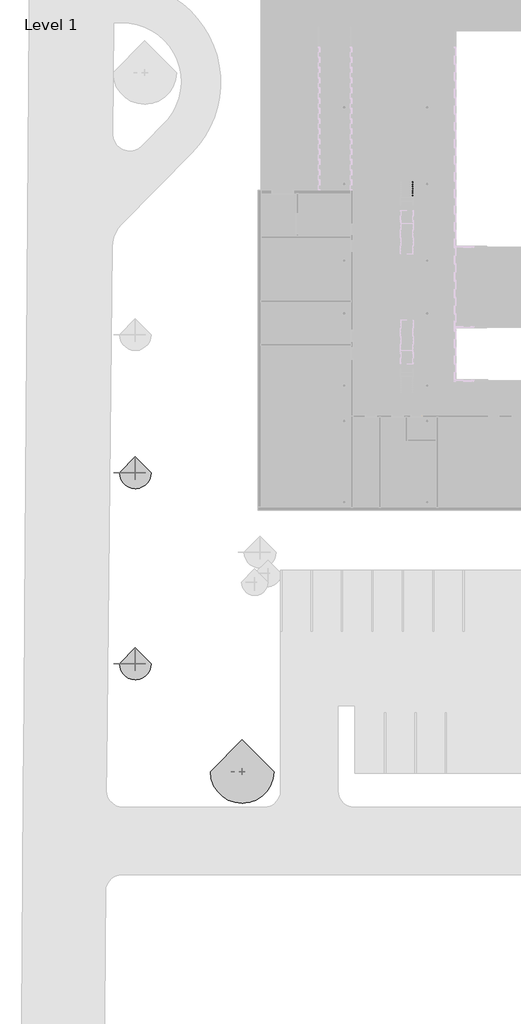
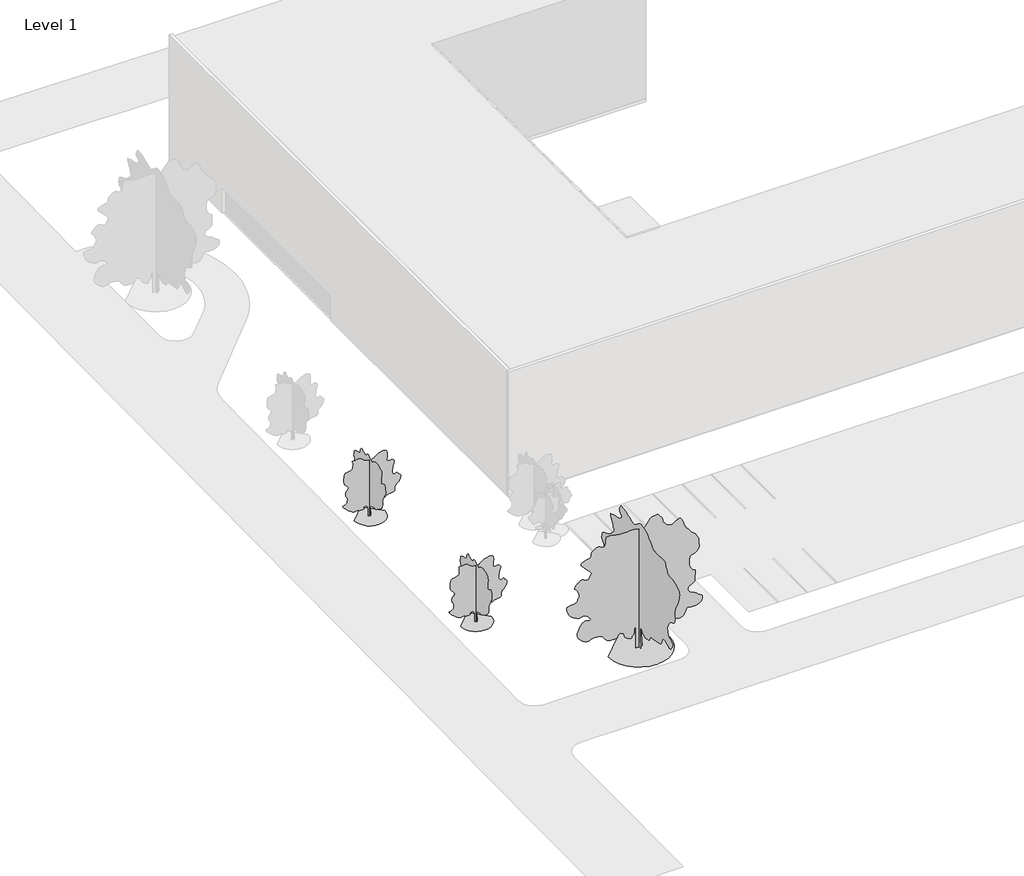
# One storey, part 22 of 23: 3 geographic elements, 1 railing.
"""IFC4 building model written with IfcOpenShell, lengths in millimetres."""

from ifc_helpers import new_model, si_unit, frame, origin, place, context, project, spatial, circle_curve, ellipse_curve, transform, mapped, element, save
from ifc_brep_helpers import plane_surface, cylinder_surface, advanced_brep
from components import m_rpc_tree_deciduous_american_beech_6_0_meters_be49fed4, m_rpc_tree_deciduous_scarlet_oak_12_5_meters_13b38d7d

model = new_model("IFC4")

# Units and contexts
model_context = context("Model", 3, world=origin())
ifc_project = project(units=[si_unit("LENGTHUNIT", "METRE", prefix="MILLI")], contexts=[model_context])

# Site, building, storey
site = spatial("IfcSite", under=ifc_project)
building = spatial("IfcBuilding", under=site)
storey = spatial("IfcBuildingStorey", under=building, Name="Level 1", Elevation=0.0)

# Geographic elements
placement = place(None, origin())
m_rpc_tree_deciduous_american_beech_6_0_meters_shape = m_rpc_tree_deciduous_american_beech_6_0_meters_be49fed4(model_context)
element("IfcGeographicElement", 1, ObjectType="M_RPC Tree - Deciduous : American Beech - 6.0 Meters", at=placement, inside=storey, context=model_context, shape_type="MappedRepresentation", body=[
    mapped(m_rpc_tree_deciduous_american_beech_6_0_meters_shape, transform((-21369.8074033, -37622.5453961, 0.0), x_axis=(1.0, 0.0, 0.0), y_axis=(0.0, 1.0, 0.0), z_axis=(0.0, 0.0, 1.0))),
])
element("IfcGeographicElement", 2, ObjectType="M_RPC Tree - Deciduous : American Beech - 6.0 Meters", at=placement, inside=storey, context=model_context, shape_type="MappedRepresentation", body=[
    mapped(m_rpc_tree_deciduous_american_beech_6_0_meters_shape, transform((-21369.8074033, -20409.5737255, 0.0), x_axis=(1.0, 0.0, 0.0), y_axis=(0.0, 1.0, 0.0), z_axis=(0.0, 0.0, 1.0))),
])
m_rpc_tree_deciduous_scarlet_oak_12_5_meters_shape = m_rpc_tree_deciduous_scarlet_oak_12_5_meters_13b38d7d(model_context)
element("IfcGeographicElement", 3, ObjectType="M_RPC Tree - Deciduous : Scarlet Oak - 12.5 Meters", at=placement, inside=storey, context=model_context, shape_type="MappedRepresentation", body=[
    mapped(m_rpc_tree_deciduous_scarlet_oak_12_5_meters_shape, transform((-11740.7687955, -47336.7967349, 0.0), x_axis=(1.0, 0.0, 0.0), y_axis=(0.0, 1.0, 0.0), z_axis=(0.0, 0.0, 1.0))),
])

# Railing
element("IfcRailing", 4, ObjectType="900mm Pipe", at=placement, inside=storey, context=model_context, shape_type="AdvancedBrep", body=[
    advanced_brep(
    [(3623.2567657, 6000.5392059, 1049.1094102), (3663.2567657, 6000.5392059, 1049.1094102), (3623.2567657, 3244.779188, 2780.0), (3663.2567657, 3244.779188, 2780.0), (3623.2567657, 2319.779188, 2780.0), (3663.2567657, 2319.779188, 2780.0), (3623.2567657, 2039.9015087, 2955.790939), (3663.2567657, 2039.9015087, 2955.790939), (3623.2567657, -699.4607941, 4676.3821375), (3663.2567657, -699.4607941, 4676.3821375)],
    [
        (0, 1, ellipse_curve(frame((3643.2567657, 6000.5392059, 1049.1094102), z_axis=(0.0, 1.0, 0.0), x_axis=(0.0, 0.0, -1.0)), 23.6178625, 20.0)),
        (1, 0, ellipse_curve(frame((3643.2567657, 6000.5392059, 1049.1094102), z_axis=(0.0, 1.0, 0.0), x_axis=(0.0, 0.0, -1.0)), 23.6178625, 20.0)),
        (0, 2),
        (2, 3, ellipse_curve(frame((3643.2567657, 3244.779188, 2780.0), z_axis=(0.0, 0.9609413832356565, -0.2767519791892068), x_axis=(0.0, -0.2767519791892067, -0.9609413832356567)), 20.812924, 20.0)),
        (3, 1),
        (3, 2, ellipse_curve(frame((3643.2567657, 3244.779188, 2780.0), z_axis=(0.0, 0.9609413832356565, -0.2767519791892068), x_axis=(0.0, -0.2767519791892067, -0.9609413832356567)), 20.812924, 20.0)),
        (2, 4),
        (4, 5, ellipse_curve(frame((3643.2567657, 2319.779188, 2780.0), z_axis=(0.0, 0.9609413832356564, -0.2767519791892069), x_axis=(0.0, 0.27675197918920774, 0.9609413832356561)), 20.812924, 20.0)),
        (5, 3),
        (5, 4, ellipse_curve(frame((3643.2567657, 2319.779188, 2780.0), z_axis=(0.0, 0.9609413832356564, -0.2767519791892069), x_axis=(0.0, 0.27675197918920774, 0.9609413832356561)), 20.812924, 20.0)),
        (4, 6),
        (6, 7, circle_curve(frame((3643.2567657, 2039.9015087, 2955.790939), z_axis=(0.0, 0.8468166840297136, -0.5318848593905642), x_axis=(1.0, 0.0, 0.0)), 20.0)),
        (7, 5),
        (7, 6, circle_curve(frame((3643.2567657, 2039.9015087, 2955.790939), z_axis=(0.0, 0.8468166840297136, -0.5318848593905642), x_axis=(1.0, 0.0, 0.0)), 20.0)),
        (8, 9, ellipse_curve(frame((3643.2567657, -699.4607941, 4676.3821375), z_axis=(0.0, -1.0, 0.0), x_axis=(0.0, 0.0, -1.0)), 23.6178625, 20.0)),
        (9, 8, ellipse_curve(frame((3643.2567657, -699.4607941, 4676.3821375), z_axis=(0.0, -1.0, 0.0), x_axis=(0.0, 0.0, -1.0)), 23.6178625, 20.0)),
        (6, 8),
        (9, 7),
    ],
    [
        plane_surface(frame((3643.2567657, 6000.5392059, 1072.7272727), z_axis=(0.0, 1.0, 0.0), x_axis=(0.0, 0.0, -1.0))),
        cylinder_surface(frame((3643.2567657, 5989.9015087, 1055.790939), z_axis=(0.0, 0.8468166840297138, -0.5318848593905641), x_axis=(1.0, 0.0, 0.0)), 20.0),
        cylinder_surface(frame((3643.2567657, 3250.5392059, 2780.0), z_axis=(0.0, 1.0, 0.0), x_axis=(1.0, 0.0, 0.0)), 20.0),
        cylinder_surface(frame((3643.2567657, 2314.9015087, 2783.0636663), z_axis=(0.0, 0.8468166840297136, -0.5318848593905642), x_axis=(1.0, 0.0, 0.0)), 20.0),
        plane_surface(frame((3643.2567657, -699.4607941, 4700.0), z_axis=(0.0, -1.0, 0.0), x_axis=(0.0, 0.0, -1.0))),
        cylinder_surface(frame((3643.2567657, 2039.9015087, 2955.790939), z_axis=(0.0, 0.8468166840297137, -0.5318848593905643), x_axis=(1.0, 0.0, 0.0)), 20.0),
    ],
    [
        (0, [[1, 2]]),
        (1, [[-1, 3, 4, 5]]),
        (1, [[-2, -5, 6, -3]]),
        (2, [[-4, 7, 8, 9]]),
        (2, [[-6, -9, 10, -7]]),
        (3, [[-8, 11, 12, 13]]),
        (3, [[-10, -13, 14, -11]]),
        (4, [[15, 16]]),
        (5, [[-12, 17, -16, 18]]),
        (5, [[-14, -18, -15, -17]]),
    ],
),
    advanced_brep(
    [(3628.2567657, 6000.5392059, 930.0138759), (3658.2567657, 6000.5392059, 930.0138759), (3628.2567657, 3250.5392059, 2657.2866031), (3658.2567657, 3250.5392059, 2657.2866031)],
    [
        (0, 1, ellipse_curve(frame((3643.2567657, 6000.5392059, 930.0138759), z_axis=(0.0, 1.0, 0.0), x_axis=(0.0, 0.0, -1.0)), 17.7133969, 15.0)),
        (1, 0, ellipse_curve(frame((3643.2567657, 6000.5392059, 930.0138759), z_axis=(0.0, 1.0, 0.0), x_axis=(0.0, 0.0, -1.0)), 17.7133969, 15.0)),
        (2, 3, ellipse_curve(frame((3643.2567657, 3250.5392059, 2657.2866031), z_axis=(0.0, -1.0, 0.0), x_axis=(0.0, 0.0, -1.0)), 17.7133969, 15.0)),
        (3, 2, ellipse_curve(frame((3643.2567657, 3250.5392059, 2657.2866031), z_axis=(0.0, -1.0, 0.0), x_axis=(0.0, 0.0, -1.0)), 17.7133969, 15.0)),
        (0, 2),
        (3, 1),
    ],
    [
        plane_surface(frame((3643.2567657, 6000.5392059, 947.7272727), z_axis=(0.0, 1.0, 0.0), x_axis=(0.0, 0.0, -1.0))),
        plane_surface(frame((3643.2567657, 3250.5392059, 2675.0), z_axis=(0.0, -1.0, 0.0), x_axis=(0.0, 0.0, -1.0))),
        cylinder_surface(frame((3643.2567657, 5992.560933, 935.0250225), z_axis=(0.0, 0.8468166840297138, -0.5318848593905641), x_axis=(1.0, 0.0, 0.0)), 15.0),
    ],
    [
        (0, [[1, 2]]),
        (1, [[3, 4]]),
        (2, [[-1, 5, -4, 6]]),
        (2, [[-2, -6, -3, -5]]),
    ],
),
    advanced_brep(
    [(3628.2567657, 3250.5392059, 2660.0), (3658.2567657, 3250.5392059, 2660.0), (3628.2567657, 2321.2191925, 2660.0), (3658.2567657, 2321.2191925, 2660.0), (3628.2567657, 2050.5392059, 2830.0138759), (3658.2567657, 2050.5392059, 2830.0138759)],
    [
        (0, 1, circle_curve(frame((3643.2567657, 3250.5392059, 2660.0), z_axis=(0.0, 1.0, 0.0), x_axis=(1.0, 0.0, 0.0)), 15.0)),
        (1, 0, circle_curve(frame((3643.2567657, 3250.5392059, 2660.0), z_axis=(0.0, 1.0, 0.0), x_axis=(1.0, 0.0, 0.0)), 15.0)),
        (0, 2),
        (2, 3, ellipse_curve(frame((3643.2567657, 2321.2191925, 2660.0), z_axis=(0.0, 0.9609413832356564, -0.2767519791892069), x_axis=(0.0, 0.2767519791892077, 0.9609413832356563)), 15.609693, 15.0)),
        (3, 1),
        (3, 2, ellipse_curve(frame((3643.2567657, 2321.2191925, 2660.0), z_axis=(0.0, 0.9609413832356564, -0.2767519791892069), x_axis=(0.0, 0.2767519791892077, 0.9609413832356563)), 15.609693, 15.0)),
        (4, 5, ellipse_curve(frame((3643.2567657, 2050.5392059, 2830.0138759), z_axis=(0.0, -1.0, 0.0), x_axis=(0.0, 0.0, -0.9999999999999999)), 17.7133969, 15.0)),
        (5, 4, ellipse_curve(frame((3643.2567657, 2050.5392059, 2830.0138759), z_axis=(0.0, -1.0, 0.0), x_axis=(0.0, 0.0, -0.9999999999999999)), 17.7133969, 15.0)),
        (2, 4),
        (5, 3),
    ],
    [
        plane_surface(frame((3643.2567657, 3250.5392059, 2675.0), z_axis=(0.0, 1.0, 0.0), x_axis=(0.0, 0.0, -1.0))),
        cylinder_surface(frame((3643.2567657, 3250.5392059, 2660.0), z_axis=(0.0, 1.0, 0.0), x_axis=(1.0, 0.0, 0.0)), 15.0),
        plane_surface(frame((3643.2567657, 2050.5392059, 2847.7272727), z_axis=(0.0, -1.0, 0.0), x_axis=(0.0, 0.0, -1.0))),
        cylinder_surface(frame((3643.2567657, 2317.560933, 2662.2977497), z_axis=(0.0, 0.8468166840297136, -0.5318848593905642), x_axis=(1.0, 0.0, 0.0)), 15.0),
    ],
    [
        (0, [[1, 2]]),
        (1, [[-1, 3, 4, 5]]),
        (1, [[-2, -5, 6, -3]]),
        (2, [[7, 8]]),
        (3, [[-4, 9, -8, 10]]),
        (3, [[-6, -10, -7, -9]]),
    ],
),
    advanced_brep(
    [(3628.2567657, 2050.5392059, 2830.0138759), (3658.2567657, 2050.5392059, 2830.0138759), (3628.2567657, -699.4607941, 4557.2866031), (3658.2567657, -699.4607941, 4557.2866031)],
    [
        (0, 1, ellipse_curve(frame((3643.2567657, 2050.5392059, 2830.0138759), z_axis=(0.0, 1.0, 0.0), x_axis=(0.0, 0.0, -0.9999999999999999)), 17.7133969, 15.0)),
        (1, 0, ellipse_curve(frame((3643.2567657, 2050.5392059, 2830.0138759), z_axis=(0.0, 1.0, 0.0), x_axis=(0.0, 0.0, -0.9999999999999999)), 17.7133969, 15.0)),
        (2, 3, ellipse_curve(frame((3643.2567657, -699.4607941, 4557.2866031), z_axis=(0.0, -1.0, 0.0), x_axis=(0.0, 0.0, -0.9999999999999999)), 17.7133969, 15.0)),
        (3, 2, ellipse_curve(frame((3643.2567657, -699.4607941, 4557.2866031), z_axis=(0.0, -1.0, 0.0), x_axis=(0.0, 0.0, -0.9999999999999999)), 17.7133969, 15.0)),
        (0, 2),
        (3, 1),
    ],
    [
        plane_surface(frame((3643.2567657, 2050.5392059, 2847.7272727), z_axis=(0.0, 1.0, 0.0), x_axis=(0.0, 0.0, -1.0))),
        plane_surface(frame((3643.2567657, -699.4607941, 4575.0), z_axis=(0.0, -1.0, 0.0), x_axis=(0.0, 0.0, -1.0))),
        cylinder_surface(frame((3643.2567657, 2042.560933, 2835.0250225), z_axis=(0.0, 0.8468166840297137, -0.5318848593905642), x_axis=(1.0, 0.0, 0.0)), 15.0),
    ],
    [
        (0, [[1, 2]]),
        (1, [[3, 4]]),
        (2, [[-1, 5, -4, 6]]),
        (2, [[-2, -6, -3, -5]]),
    ],
),
    advanced_brep(
    [(3628.2567657, 6000.5392059, 805.0138759), (3658.2567657, 6000.5392059, 805.0138759), (3628.2567657, 3250.5392059, 2532.2866031), (3658.2567657, 3250.5392059, 2532.2866031)],
    [
        (0, 1, ellipse_curve(frame((3643.2567657, 6000.5392059, 805.0138759), z_axis=(0.0, 1.0, 0.0), x_axis=(0.0, 0.0, -1.0)), 17.7133969, 15.0)),
        (1, 0, ellipse_curve(frame((3643.2567657, 6000.5392059, 805.0138759), z_axis=(0.0, 1.0, 0.0), x_axis=(0.0, 0.0, -1.0)), 17.7133969, 15.0)),
        (2, 3, ellipse_curve(frame((3643.2567657, 3250.5392059, 2532.2866031), z_axis=(0.0, -1.0, 0.0), x_axis=(0.0, 0.0, -1.0)), 17.7133969, 15.0)),
        (3, 2, ellipse_curve(frame((3643.2567657, 3250.5392059, 2532.2866031), z_axis=(0.0, -1.0, 0.0), x_axis=(0.0, 0.0, -1.0)), 17.7133969, 15.0)),
        (0, 2),
        (3, 1),
    ],
    [
        plane_surface(frame((3643.2567657, 6000.5392059, 822.7272727), z_axis=(0.0, 1.0, 0.0), x_axis=(0.0, 0.0, -1.0))),
        plane_surface(frame((3643.2567657, 3250.5392059, 2550.0), z_axis=(0.0, -1.0, 0.0), x_axis=(0.0, 0.0, -1.0))),
        cylinder_surface(frame((3643.2567657, 5992.560933, 810.0250225), z_axis=(0.0, 0.8468166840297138, -0.5318848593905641), x_axis=(1.0, 0.0, 0.0)), 15.0),
    ],
    [
        (0, [[1, 2]]),
        (1, [[3, 4]]),
        (2, [[-1, 5, -4, 6]]),
        (2, [[-2, -6, -3, -5]]),
    ],
),
    advanced_brep(
    [(3628.2567657, 3250.5392059, 2535.0), (3658.2567657, 3250.5392059, 2535.0), (3628.2567657, 2321.2191925, 2535.0), (3658.2567657, 2321.2191925, 2535.0), (3628.2567657, 2050.5392059, 2705.0138759), (3658.2567657, 2050.5392059, 2705.0138759)],
    [
        (0, 1, circle_curve(frame((3643.2567657, 3250.5392059, 2535.0), z_axis=(0.0, 1.0, 0.0), x_axis=(1.0, 0.0, 0.0)), 15.0)),
        (1, 0, circle_curve(frame((3643.2567657, 3250.5392059, 2535.0), z_axis=(0.0, 1.0, 0.0), x_axis=(1.0, 0.0, 0.0)), 15.0)),
        (0, 2),
        (2, 3, ellipse_curve(frame((3643.2567657, 2321.2191925, 2535.0), z_axis=(0.0, 0.9609413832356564, -0.2767519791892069), x_axis=(0.0, 0.2767519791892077, 0.9609413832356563)), 15.609693, 15.0)),
        (3, 1),
        (3, 2, ellipse_curve(frame((3643.2567657, 2321.2191925, 2535.0), z_axis=(0.0, 0.9609413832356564, -0.2767519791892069), x_axis=(0.0, 0.2767519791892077, 0.9609413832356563)), 15.609693, 15.0)),
        (4, 5, ellipse_curve(frame((3643.2567657, 2050.5392059, 2705.0138759), z_axis=(0.0, -1.0, 0.0), x_axis=(0.0, 0.0, -0.9999999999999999)), 17.7133969, 15.0)),
        (5, 4, ellipse_curve(frame((3643.2567657, 2050.5392059, 2705.0138759), z_axis=(0.0, -1.0, 0.0), x_axis=(0.0, 0.0, -0.9999999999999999)), 17.7133969, 15.0)),
        (2, 4),
        (5, 3),
    ],
    [
        plane_surface(frame((3643.2567657, 3250.5392059, 2550.0), z_axis=(0.0, 1.0, 0.0), x_axis=(0.0, 0.0, -1.0))),
        cylinder_surface(frame((3643.2567657, 3250.5392059, 2535.0), z_axis=(0.0, 1.0, 0.0), x_axis=(1.0, 0.0, 0.0)), 15.0),
        plane_surface(frame((3643.2567657, 2050.5392059, 2722.7272727), z_axis=(0.0, -1.0, 0.0), x_axis=(0.0, 0.0, -1.0))),
        cylinder_surface(frame((3643.2567657, 2317.560933, 2537.2977497), z_axis=(0.0, 0.8468166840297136, -0.5318848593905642), x_axis=(1.0, 0.0, 0.0)), 15.0),
    ],
    [
        (0, [[1, 2]]),
        (1, [[-1, 3, 4, 5]]),
        (1, [[-2, -5, 6, -3]]),
        (2, [[7, 8]]),
        (3, [[-4, 9, -8, 10]]),
        (3, [[-6, -10, -7, -9]]),
    ],
),
    advanced_brep(
    [(3628.2567657, 2050.5392059, 2705.0138759), (3658.2567657, 2050.5392059, 2705.0138759), (3628.2567657, -699.4607941, 4432.2866031), (3658.2567657, -699.4607941, 4432.2866031)],
    [
        (0, 1, ellipse_curve(frame((3643.2567657, 2050.5392059, 2705.0138759), z_axis=(0.0, 1.0, 0.0), x_axis=(0.0, 0.0, -0.9999999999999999)), 17.7133969, 15.0)),
        (1, 0, ellipse_curve(frame((3643.2567657, 2050.5392059, 2705.0138759), z_axis=(0.0, 1.0, 0.0), x_axis=(0.0, 0.0, -0.9999999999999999)), 17.7133969, 15.0)),
        (2, 3, ellipse_curve(frame((3643.2567657, -699.4607941, 4432.2866031), z_axis=(0.0, -1.0, 0.0), x_axis=(0.0, 0.0, -0.9999999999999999)), 17.7133969, 15.0)),
        (3, 2, ellipse_curve(frame((3643.2567657, -699.4607941, 4432.2866031), z_axis=(0.0, -1.0, 0.0), x_axis=(0.0, 0.0, -0.9999999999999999)), 17.7133969, 15.0)),
        (0, 2),
        (3, 1),
    ],
    [
        plane_surface(frame((3643.2567657, 2050.5392059, 2722.7272727), z_axis=(0.0, 1.0, 0.0), x_axis=(0.0, 0.0, -1.0))),
        plane_surface(frame((3643.2567657, -699.4607941, 4450.0), z_axis=(0.0, -1.0, 0.0), x_axis=(0.0, 0.0, -1.0))),
        cylinder_surface(frame((3643.2567657, 2042.560933, 2710.0250225), z_axis=(0.0, 0.8468166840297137, -0.5318848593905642), x_axis=(1.0, 0.0, 0.0)), 15.0),
    ],
    [
        (0, [[1, 2]]),
        (1, [[3, 4]]),
        (2, [[-1, 5, -4, 6]]),
        (2, [[-2, -6, -3, -5]]),
    ],
),
    advanced_brep(
    [(3628.2567657, 6000.5392059, 680.0138759), (3658.2567657, 6000.5392059, 680.0138759), (3628.2567657, 3250.5392059, 2407.2866031), (3658.2567657, 3250.5392059, 2407.2866031)],
    [
        (0, 1, ellipse_curve(frame((3643.2567657, 6000.5392059, 680.0138759), z_axis=(0.0, 1.0, 0.0), x_axis=(0.0, 0.0, -1.0)), 17.7133969, 15.0)),
        (1, 0, ellipse_curve(frame((3643.2567657, 6000.5392059, 680.0138759), z_axis=(0.0, 1.0, 0.0), x_axis=(0.0, 0.0, -1.0)), 17.7133969, 15.0)),
        (2, 3, ellipse_curve(frame((3643.2567657, 3250.5392059, 2407.2866031), z_axis=(0.0, -1.0, 0.0), x_axis=(0.0, 0.0, -1.0)), 17.7133969, 15.0)),
        (3, 2, ellipse_curve(frame((3643.2567657, 3250.5392059, 2407.2866031), z_axis=(0.0, -1.0, 0.0), x_axis=(0.0, 0.0, -1.0)), 17.7133969, 15.0)),
        (0, 2),
        (3, 1),
    ],
    [
        plane_surface(frame((3643.2567657, 6000.5392059, 697.7272727), z_axis=(0.0, 1.0, 0.0), x_axis=(0.0, 0.0, -1.0))),
        plane_surface(frame((3643.2567657, 3250.5392059, 2425.0), z_axis=(0.0, -1.0, 0.0), x_axis=(0.0, 0.0, -1.0))),
        cylinder_surface(frame((3643.2567657, 5992.560933, 685.0250225), z_axis=(0.0, 0.8468166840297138, -0.5318848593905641), x_axis=(1.0, 0.0, 0.0)), 15.0),
    ],
    [
        (0, [[1, 2]]),
        (1, [[3, 4]]),
        (2, [[-1, 5, -4, 6]]),
        (2, [[-2, -6, -3, -5]]),
    ],
),
    advanced_brep(
    [(3628.2567657, 3250.5392059, 2410.0), (3658.2567657, 3250.5392059, 2410.0), (3628.2567657, 2321.2191925, 2410.0), (3658.2567657, 2321.2191925, 2410.0), (3628.2567657, 2050.5392059, 2580.0138759), (3658.2567657, 2050.5392059, 2580.0138759)],
    [
        (0, 1, circle_curve(frame((3643.2567657, 3250.5392059, 2410.0), z_axis=(0.0, 1.0, 0.0), x_axis=(1.0, 0.0, 0.0)), 15.0)),
        (1, 0, circle_curve(frame((3643.2567657, 3250.5392059, 2410.0), z_axis=(0.0, 1.0, 0.0), x_axis=(1.0, 0.0, 0.0)), 15.0)),
        (0, 2),
        (2, 3, ellipse_curve(frame((3643.2567657, 2321.2191925, 2410.0), z_axis=(0.0, 0.9609413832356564, -0.2767519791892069), x_axis=(0.0, 0.2767519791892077, 0.9609413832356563)), 15.609693, 15.0)),
        (3, 1),
        (3, 2, ellipse_curve(frame((3643.2567657, 2321.2191925, 2410.0), z_axis=(0.0, 0.9609413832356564, -0.2767519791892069), x_axis=(0.0, 0.2767519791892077, 0.9609413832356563)), 15.609693, 15.0)),
        (4, 5, ellipse_curve(frame((3643.2567657, 2050.5392059, 2580.0138759), z_axis=(0.0, -1.0, 0.0), x_axis=(0.0, 0.0, -0.9999999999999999)), 17.7133969, 15.0)),
        (5, 4, ellipse_curve(frame((3643.2567657, 2050.5392059, 2580.0138759), z_axis=(0.0, -1.0, 0.0), x_axis=(0.0, 0.0, -0.9999999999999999)), 17.7133969, 15.0)),
        (2, 4),
        (5, 3),
    ],
    [
        plane_surface(frame((3643.2567657, 3250.5392059, 2425.0), z_axis=(0.0, 1.0, 0.0), x_axis=(0.0, 0.0, -1.0))),
        cylinder_surface(frame((3643.2567657, 3250.5392059, 2410.0), z_axis=(0.0, 1.0, 0.0), x_axis=(1.0, 0.0, 0.0)), 15.0),
        plane_surface(frame((3643.2567657, 2050.5392059, 2597.7272727), z_axis=(0.0, -1.0, 0.0), x_axis=(0.0, 0.0, -1.0))),
        cylinder_surface(frame((3643.2567657, 2317.560933, 2412.2977497), z_axis=(0.0, 0.8468166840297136, -0.5318848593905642), x_axis=(1.0, 0.0, 0.0)), 15.0),
    ],
    [
        (0, [[1, 2]]),
        (1, [[-1, 3, 4, 5]]),
        (1, [[-2, -5, 6, -3]]),
        (2, [[7, 8]]),
        (3, [[-4, 9, -8, 10]]),
        (3, [[-6, -10, -7, -9]]),
    ],
),
    advanced_brep(
    [(3628.2567657, 2050.5392059, 2580.0138759), (3658.2567657, 2050.5392059, 2580.0138759), (3628.2567657, -699.4607941, 4307.2866031), (3658.2567657, -699.4607941, 4307.2866031)],
    [
        (0, 1, ellipse_curve(frame((3643.2567657, 2050.5392059, 2580.0138759), z_axis=(0.0, 1.0, 0.0), x_axis=(0.0, 0.0, -0.9999999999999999)), 17.7133969, 15.0)),
        (1, 0, ellipse_curve(frame((3643.2567657, 2050.5392059, 2580.0138759), z_axis=(0.0, 1.0, 0.0), x_axis=(0.0, 0.0, -0.9999999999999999)), 17.7133969, 15.0)),
        (2, 3, ellipse_curve(frame((3643.2567657, -699.4607941, 4307.2866031), z_axis=(0.0, -1.0, 0.0), x_axis=(0.0, 0.0, -0.9999999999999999)), 17.7133969, 15.0)),
        (3, 2, ellipse_curve(frame((3643.2567657, -699.4607941, 4307.2866031), z_axis=(0.0, -1.0, 0.0), x_axis=(0.0, 0.0, -0.9999999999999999)), 17.7133969, 15.0)),
        (0, 2),
        (3, 1),
    ],
    [
        plane_surface(frame((3643.2567657, 2050.5392059, 2597.7272727), z_axis=(0.0, 1.0, 0.0), x_axis=(0.0, 0.0, -1.0))),
        plane_surface(frame((3643.2567657, -699.4607941, 4325.0), z_axis=(0.0, -1.0, 0.0), x_axis=(0.0, 0.0, -1.0))),
        cylinder_surface(frame((3643.2567657, 2042.560933, 2585.0250225), z_axis=(0.0, 0.8468166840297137, -0.5318848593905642), x_axis=(1.0, 0.0, 0.0)), 15.0),
    ],
    [
        (0, [[1, 2]]),
        (1, [[3, 4]]),
        (2, [[-1, 5, -4, 6]]),
        (2, [[-2, -6, -3, -5]]),
    ],
),
    advanced_brep(
    [(3628.2567657, 6000.5392059, 555.0138759), (3658.2567657, 6000.5392059, 555.0138759), (3628.2567657, 3250.5392059, 2282.2866031), (3658.2567657, 3250.5392059, 2282.2866031)],
    [
        (0, 1, ellipse_curve(frame((3643.2567657, 6000.5392059, 555.0138759), z_axis=(0.0, 1.0, 0.0), x_axis=(0.0, 0.0, -1.0)), 17.7133969, 15.0)),
        (1, 0, ellipse_curve(frame((3643.2567657, 6000.5392059, 555.0138759), z_axis=(0.0, 1.0, 0.0), x_axis=(0.0, 0.0, -1.0)), 17.7133969, 15.0)),
        (2, 3, ellipse_curve(frame((3643.2567657, 3250.5392059, 2282.2866031), z_axis=(0.0, -1.0, 0.0), x_axis=(0.0, 0.0, -1.0)), 17.7133969, 15.0)),
        (3, 2, ellipse_curve(frame((3643.2567657, 3250.5392059, 2282.2866031), z_axis=(0.0, -1.0, 0.0), x_axis=(0.0, 0.0, -1.0)), 17.7133969, 15.0)),
        (0, 2),
        (3, 1),
    ],
    [
        plane_surface(frame((3643.2567657, 6000.5392059, 572.7272727), z_axis=(0.0, 1.0, 0.0), x_axis=(0.0, 0.0, -1.0))),
        plane_surface(frame((3643.2567657, 3250.5392059, 2300.0), z_axis=(0.0, -1.0, 0.0), x_axis=(0.0, 0.0, -1.0))),
        cylinder_surface(frame((3643.2567657, 5992.560933, 560.0250225), z_axis=(0.0, 0.8468166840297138, -0.5318848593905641), x_axis=(1.0, 0.0, 0.0)), 15.0),
    ],
    [
        (0, [[1, 2]]),
        (1, [[3, 4]]),
        (2, [[-1, 5, -4, 6]]),
        (2, [[-2, -6, -3, -5]]),
    ],
),
    advanced_brep(
    [(3628.2567657, 3250.5392059, 2285.0), (3658.2567657, 3250.5392059, 2285.0), (3628.2567657, 2321.2191925, 2285.0), (3658.2567657, 2321.2191925, 2285.0), (3628.2567657, 2050.5392059, 2455.0138759), (3658.2567657, 2050.5392059, 2455.0138759)],
    [
        (0, 1, circle_curve(frame((3643.2567657, 3250.5392059, 2285.0), z_axis=(0.0, 1.0, 0.0), x_axis=(1.0, 0.0, 0.0)), 15.0)),
        (1, 0, circle_curve(frame((3643.2567657, 3250.5392059, 2285.0), z_axis=(0.0, 1.0, 0.0), x_axis=(1.0, 0.0, 0.0)), 15.0)),
        (0, 2),
        (2, 3, ellipse_curve(frame((3643.2567657, 2321.2191925, 2285.0), z_axis=(0.0, 0.9609413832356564, -0.2767519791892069), x_axis=(0.0, 0.2767519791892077, 0.9609413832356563)), 15.609693, 15.0)),
        (3, 1),
        (3, 2, ellipse_curve(frame((3643.2567657, 2321.2191925, 2285.0), z_axis=(0.0, 0.9609413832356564, -0.2767519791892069), x_axis=(0.0, 0.2767519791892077, 0.9609413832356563)), 15.609693, 15.0)),
        (4, 5, ellipse_curve(frame((3643.2567657, 2050.5392059, 2455.0138759), z_axis=(0.0, -1.0, 0.0), x_axis=(0.0, 0.0, -0.9999999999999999)), 17.7133969, 15.0)),
        (5, 4, ellipse_curve(frame((3643.2567657, 2050.5392059, 2455.0138759), z_axis=(0.0, -1.0, 0.0), x_axis=(0.0, 0.0, -0.9999999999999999)), 17.7133969, 15.0)),
        (2, 4),
        (5, 3),
    ],
    [
        plane_surface(frame((3643.2567657, 3250.5392059, 2300.0), z_axis=(0.0, 1.0, 0.0), x_axis=(0.0, 0.0, -1.0))),
        cylinder_surface(frame((3643.2567657, 3250.5392059, 2285.0), z_axis=(0.0, 1.0, 0.0), x_axis=(1.0, 0.0, 0.0)), 15.0),
        plane_surface(frame((3643.2567657, 2050.5392059, 2472.7272727), z_axis=(0.0, -1.0, 0.0), x_axis=(0.0, 0.0, -1.0))),
        cylinder_surface(frame((3643.2567657, 2317.560933, 2287.2977497), z_axis=(0.0, 0.8468166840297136, -0.5318848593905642), x_axis=(1.0, 0.0, 0.0)), 15.0),
    ],
    [
        (0, [[1, 2]]),
        (1, [[-1, 3, 4, 5]]),
        (1, [[-2, -5, 6, -3]]),
        (2, [[7, 8]]),
        (3, [[-4, 9, -8, 10]]),
        (3, [[-6, -10, -7, -9]]),
    ],
),
    advanced_brep(
    [(3628.2567657, 2050.5392059, 2455.0138759), (3658.2567657, 2050.5392059, 2455.0138759), (3628.2567657, -699.4607941, 4182.2866031), (3658.2567657, -699.4607941, 4182.2866031)],
    [
        (0, 1, ellipse_curve(frame((3643.2567657, 2050.5392059, 2455.0138759), z_axis=(0.0, 1.0, 0.0), x_axis=(0.0, 0.0, -0.9999999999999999)), 17.7133969, 15.0)),
        (1, 0, ellipse_curve(frame((3643.2567657, 2050.5392059, 2455.0138759), z_axis=(0.0, 1.0, 0.0), x_axis=(0.0, 0.0, -0.9999999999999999)), 17.7133969, 15.0)),
        (2, 3, ellipse_curve(frame((3643.2567657, -699.4607941, 4182.2866031), z_axis=(0.0, -1.0, 0.0), x_axis=(0.0, 0.0, -0.9999999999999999)), 17.7133969, 15.0)),
        (3, 2, ellipse_curve(frame((3643.2567657, -699.4607941, 4182.2866031), z_axis=(0.0, -1.0, 0.0), x_axis=(0.0, 0.0, -0.9999999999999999)), 17.7133969, 15.0)),
        (0, 2),
        (3, 1),
    ],
    [
        plane_surface(frame((3643.2567657, 2050.5392059, 2472.7272727), z_axis=(0.0, 1.0, 0.0), x_axis=(0.0, 0.0, -1.0))),
        plane_surface(frame((3643.2567657, -699.4607941, 4200.0), z_axis=(0.0, -1.0, 0.0), x_axis=(0.0, 0.0, -1.0))),
        cylinder_surface(frame((3643.2567657, 2042.560933, 2460.0250225), z_axis=(0.0, 0.8468166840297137, -0.5318848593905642), x_axis=(1.0, 0.0, 0.0)), 15.0),
    ],
    [
        (0, [[1, 2]]),
        (1, [[3, 4]]),
        (2, [[-1, 5, -4, 6]]),
        (2, [[-2, -6, -3, -5]]),
    ],
),
    advanced_brep(
    [(3628.2567657, 6000.5392059, 430.0138759), (3658.2567657, 6000.5392059, 430.0138759), (3628.2567657, 3250.5392059, 2157.2866031), (3658.2567657, 3250.5392059, 2157.2866031)],
    [
        (0, 1, ellipse_curve(frame((3643.2567657, 6000.5392059, 430.0138759), z_axis=(0.0, 1.0, 0.0), x_axis=(0.0, 0.0, -1.0)), 17.7133969, 15.0)),
        (1, 0, ellipse_curve(frame((3643.2567657, 6000.5392059, 430.0138759), z_axis=(0.0, 1.0, 0.0), x_axis=(0.0, 0.0, -1.0)), 17.7133969, 15.0)),
        (2, 3, ellipse_curve(frame((3643.2567657, 3250.5392059, 2157.2866031), z_axis=(0.0, -1.0, 0.0), x_axis=(0.0, 0.0, -1.0)), 17.7133969, 15.0)),
        (3, 2, ellipse_curve(frame((3643.2567657, 3250.5392059, 2157.2866031), z_axis=(0.0, -1.0, 0.0), x_axis=(0.0, 0.0, -1.0)), 17.7133969, 15.0)),
        (0, 2),
        (3, 1),
    ],
    [
        plane_surface(frame((3643.2567657, 6000.5392059, 447.7272727), z_axis=(0.0, 1.0, 0.0), x_axis=(0.0, 0.0, -1.0))),
        plane_surface(frame((3643.2567657, 3250.5392059, 2175.0), z_axis=(0.0, -1.0, 0.0), x_axis=(0.0, 0.0, -1.0))),
        cylinder_surface(frame((3643.2567657, 5992.560933, 435.0250225), z_axis=(0.0, 0.8468166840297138, -0.5318848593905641), x_axis=(1.0, 0.0, 0.0)), 15.0),
    ],
    [
        (0, [[1, 2]]),
        (1, [[3, 4]]),
        (2, [[-1, 5, -4, 6]]),
        (2, [[-2, -6, -3, -5]]),
    ],
),
    advanced_brep(
    [(3628.2567657, 3250.5392059, 2160.0), (3658.2567657, 3250.5392059, 2160.0), (3628.2567657, 2321.2191925, 2160.0), (3658.2567657, 2321.2191925, 2160.0), (3628.2567657, 2050.5392059, 2330.0138759), (3658.2567657, 2050.5392059, 2330.0138759)],
    [
        (0, 1, circle_curve(frame((3643.2567657, 3250.5392059, 2160.0), z_axis=(0.0, 1.0, 0.0), x_axis=(1.0, 0.0, 0.0)), 15.0)),
        (1, 0, circle_curve(frame((3643.2567657, 3250.5392059, 2160.0), z_axis=(0.0, 1.0, 0.0), x_axis=(1.0, 0.0, 0.0)), 15.0)),
        (0, 2),
        (2, 3, ellipse_curve(frame((3643.2567657, 2321.2191925, 2160.0), z_axis=(0.0, 0.9609413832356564, -0.2767519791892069), x_axis=(0.0, 0.2767519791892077, 0.9609413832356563)), 15.609693, 15.0)),
        (3, 1),
        (3, 2, ellipse_curve(frame((3643.2567657, 2321.2191925, 2160.0), z_axis=(0.0, 0.9609413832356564, -0.2767519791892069), x_axis=(0.0, 0.2767519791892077, 0.9609413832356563)), 15.609693, 15.0)),
        (4, 5, ellipse_curve(frame((3643.2567657, 2050.5392059, 2330.0138759), z_axis=(0.0, -1.0, 0.0), x_axis=(0.0, 0.0, -0.9999999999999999)), 17.7133969, 15.0)),
        (5, 4, ellipse_curve(frame((3643.2567657, 2050.5392059, 2330.0138759), z_axis=(0.0, -1.0, 0.0), x_axis=(0.0, 0.0, -0.9999999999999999)), 17.7133969, 15.0)),
        (2, 4),
        (5, 3),
    ],
    [
        plane_surface(frame((3643.2567657, 3250.5392059, 2175.0), z_axis=(0.0, 1.0, 0.0), x_axis=(0.0, 0.0, -1.0))),
        cylinder_surface(frame((3643.2567657, 3250.5392059, 2160.0), z_axis=(0.0, 1.0, 0.0), x_axis=(1.0, 0.0, 0.0)), 15.0),
        plane_surface(frame((3643.2567657, 2050.5392059, 2347.7272727), z_axis=(0.0, -1.0, 0.0), x_axis=(0.0, 0.0, -1.0))),
        cylinder_surface(frame((3643.2567657, 2317.560933, 2162.2977497), z_axis=(0.0, 0.8468166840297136, -0.5318848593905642), x_axis=(1.0, 0.0, 0.0)), 15.0),
    ],
    [
        (0, [[1, 2]]),
        (1, [[-1, 3, 4, 5]]),
        (1, [[-2, -5, 6, -3]]),
        (2, [[7, 8]]),
        (3, [[-4, 9, -8, 10]]),
        (3, [[-6, -10, -7, -9]]),
    ],
),
    advanced_brep(
    [(3628.2567657, 2050.5392059, 2330.0138759), (3658.2567657, 2050.5392059, 2330.0138759), (3628.2567657, -699.4607941, 4057.2866031), (3658.2567657, -699.4607941, 4057.2866031)],
    [
        (0, 1, ellipse_curve(frame((3643.2567657, 2050.5392059, 2330.0138759), z_axis=(0.0, 1.0, 0.0), x_axis=(0.0, 0.0, -0.9999999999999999)), 17.7133969, 15.0)),
        (1, 0, ellipse_curve(frame((3643.2567657, 2050.5392059, 2330.0138759), z_axis=(0.0, 1.0, 0.0), x_axis=(0.0, 0.0, -0.9999999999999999)), 17.7133969, 15.0)),
        (2, 3, ellipse_curve(frame((3643.2567657, -699.4607941, 4057.2866031), z_axis=(0.0, -1.0, 0.0), x_axis=(0.0, 0.0, -0.9999999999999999)), 17.7133969, 15.0)),
        (3, 2, ellipse_curve(frame((3643.2567657, -699.4607941, 4057.2866031), z_axis=(0.0, -1.0, 0.0), x_axis=(0.0, 0.0, -0.9999999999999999)), 17.7133969, 15.0)),
        (0, 2),
        (3, 1),
    ],
    [
        plane_surface(frame((3643.2567657, 2050.5392059, 2347.7272727), z_axis=(0.0, 1.0, 0.0), x_axis=(0.0, 0.0, -1.0))),
        plane_surface(frame((3643.2567657, -699.4607941, 4075.0), z_axis=(0.0, -1.0, 0.0), x_axis=(0.0, 0.0, -1.0))),
        cylinder_surface(frame((3643.2567657, 2042.560933, 2335.0250225), z_axis=(0.0, 0.8468166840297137, -0.5318848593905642), x_axis=(1.0, 0.0, 0.0)), 15.0),
    ],
    [
        (0, [[1, 2]]),
        (1, [[3, 4]]),
        (2, [[-1, 5, -4, 6]]),
        (2, [[-2, -6, -3, -5]]),
    ],
),
    advanced_brep(
    [(3628.2567657, 6000.5392059, 305.0138759), (3658.2567657, 6000.5392059, 305.0138759), (3628.2567657, 3250.5392059, 2032.2866031), (3658.2567657, 3250.5392059, 2032.2866031)],
    [
        (0, 1, ellipse_curve(frame((3643.2567657, 6000.5392059, 305.0138759), z_axis=(0.0, 1.0, 0.0), x_axis=(0.0, 0.0, -1.0)), 17.7133969, 15.0)),
        (1, 0, ellipse_curve(frame((3643.2567657, 6000.5392059, 305.0138759), z_axis=(0.0, 1.0, 0.0), x_axis=(0.0, 0.0, -1.0)), 17.7133969, 15.0)),
        (2, 3, ellipse_curve(frame((3643.2567657, 3250.5392059, 2032.2866031), z_axis=(0.0, -1.0, 0.0), x_axis=(0.0, 0.0, -1.0)), 17.7133969, 15.0)),
        (3, 2, ellipse_curve(frame((3643.2567657, 3250.5392059, 2032.2866031), z_axis=(0.0, -1.0, 0.0), x_axis=(0.0, 0.0, -1.0)), 17.7133969, 15.0)),
        (0, 2),
        (3, 1),
    ],
    [
        plane_surface(frame((3643.2567657, 6000.5392059, 322.7272727), z_axis=(0.0, 1.0, 0.0), x_axis=(0.0, 0.0, -1.0))),
        plane_surface(frame((3643.2567657, 3250.5392059, 2050.0), z_axis=(0.0, -1.0, 0.0), x_axis=(0.0, 0.0, -1.0))),
        cylinder_surface(frame((3643.2567657, 5992.560933, 310.0250225), z_axis=(0.0, 0.8468166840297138, -0.5318848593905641), x_axis=(1.0, 0.0, 0.0)), 15.0),
    ],
    [
        (0, [[1, 2]]),
        (1, [[3, 4]]),
        (2, [[-1, 5, -4, 6]]),
        (2, [[-2, -6, -3, -5]]),
    ],
),
    advanced_brep(
    [(3628.2567657, 3250.5392059, 2035.0), (3658.2567657, 3250.5392059, 2035.0), (3628.2567657, 2321.2191925, 2035.0), (3658.2567657, 2321.2191925, 2035.0), (3628.2567657, 2050.5392059, 2205.0138759), (3658.2567657, 2050.5392059, 2205.0138759)],
    [
        (0, 1, circle_curve(frame((3643.2567657, 3250.5392059, 2035.0), z_axis=(0.0, 1.0, 0.0), x_axis=(1.0, 0.0, 0.0)), 15.0)),
        (1, 0, circle_curve(frame((3643.2567657, 3250.5392059, 2035.0), z_axis=(0.0, 1.0, 0.0), x_axis=(1.0, 0.0, 0.0)), 15.0)),
        (0, 2),
        (2, 3, ellipse_curve(frame((3643.2567657, 2321.2191925, 2035.0), z_axis=(0.0, 0.9609413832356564, -0.2767519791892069), x_axis=(0.0, 0.2767519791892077, 0.9609413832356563)), 15.609693, 15.0)),
        (3, 1),
        (3, 2, ellipse_curve(frame((3643.2567657, 2321.2191925, 2035.0), z_axis=(0.0, 0.9609413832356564, -0.2767519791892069), x_axis=(0.0, 0.2767519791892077, 0.9609413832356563)), 15.609693, 15.0)),
        (4, 5, ellipse_curve(frame((3643.2567657, 2050.5392059, 2205.0138759), z_axis=(0.0, -1.0, 0.0), x_axis=(0.0, 0.0, -0.9999999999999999)), 17.7133969, 15.0)),
        (5, 4, ellipse_curve(frame((3643.2567657, 2050.5392059, 2205.0138759), z_axis=(0.0, -1.0, 0.0), x_axis=(0.0, 0.0, -0.9999999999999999)), 17.7133969, 15.0)),
        (2, 4),
        (5, 3),
    ],
    [
        plane_surface(frame((3643.2567657, 3250.5392059, 2050.0), z_axis=(0.0, 1.0, 0.0), x_axis=(0.0, 0.0, -1.0))),
        cylinder_surface(frame((3643.2567657, 3250.5392059, 2035.0), z_axis=(0.0, 1.0, 0.0), x_axis=(1.0, 0.0, 0.0)), 15.0),
        plane_surface(frame((3643.2567657, 2050.5392059, 2222.7272727), z_axis=(0.0, -1.0, 0.0), x_axis=(0.0, 0.0, -1.0))),
        cylinder_surface(frame((3643.2567657, 2317.560933, 2037.2977497), z_axis=(0.0, 0.8468166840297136, -0.5318848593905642), x_axis=(1.0, 0.0, 0.0)), 15.0),
    ],
    [
        (0, [[1, 2]]),
        (1, [[-1, 3, 4, 5]]),
        (1, [[-2, -5, 6, -3]]),
        (2, [[7, 8]]),
        (3, [[-4, 9, -8, 10]]),
        (3, [[-6, -10, -7, -9]]),
    ],
),
    advanced_brep(
    [(3628.2567657, 2050.5392059, 2205.0138759), (3658.2567657, 2050.5392059, 2205.0138759), (3628.2567657, -699.4607941, 3932.2866031), (3658.2567657, -699.4607941, 3932.2866031)],
    [
        (0, 1, ellipse_curve(frame((3643.2567657, 2050.5392059, 2205.0138759), z_axis=(0.0, 1.0, 0.0), x_axis=(0.0, 0.0, -0.9999999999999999)), 17.7133969, 15.0)),
        (1, 0, ellipse_curve(frame((3643.2567657, 2050.5392059, 2205.0138759), z_axis=(0.0, 1.0, 0.0), x_axis=(0.0, 0.0, -0.9999999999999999)), 17.7133969, 15.0)),
        (2, 3, ellipse_curve(frame((3643.2567657, -699.4607941, 3932.2866031), z_axis=(0.0, -1.0, 0.0), x_axis=(0.0, 0.0, -0.9999999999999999)), 17.7133969, 15.0)),
        (3, 2, ellipse_curve(frame((3643.2567657, -699.4607941, 3932.2866031), z_axis=(0.0, -1.0, 0.0), x_axis=(0.0, 0.0, -0.9999999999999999)), 17.7133969, 15.0)),
        (0, 2),
        (3, 1),
    ],
    [
        plane_surface(frame((3643.2567657, 2050.5392059, 2222.7272727), z_axis=(0.0, 1.0, 0.0), x_axis=(0.0, 0.0, -1.0))),
        plane_surface(frame((3643.2567657, -699.4607941, 3950.0), z_axis=(0.0, -1.0, 0.0), x_axis=(0.0, 0.0, -1.0))),
        cylinder_surface(frame((3643.2567657, 2042.560933, 2210.0250225), z_axis=(0.0, 0.8468166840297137, -0.5318848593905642), x_axis=(1.0, 0.0, 0.0)), 15.0),
    ],
    [
        (0, [[1, 2]]),
        (1, [[3, 4]]),
        (2, [[-1, 5, -4, 6]]),
        (2, [[-2, -6, -3, -5]]),
    ],
),
    advanced_brep(
    [(3655.7567657, 50.5392059, 4181.6898948), (3630.7567657, 50.5392059, 4181.6898948), (3630.7567657, 50.5392059, 3281.8181818), (3655.7567657, 50.5392059, 3281.8181818)],
    [
        (0, 1, ellipse_curve(frame((3643.2567657, 50.5392059, 4181.6898948), z_axis=(0.0, -0.5318848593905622, -0.8468166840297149), x_axis=(0.0, -0.8468166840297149, 0.531884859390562)), 14.7611641, 12.5)),
        (1, 2),
        (2, 3, circle_curve(frame((3643.2567657, 50.5392059, 3281.8181818), z_axis=(0.0, 0.0, 1.0), x_axis=(-1.0, 0.0, 0.0)), 12.5)),
        (3, 0),
        (3, 2, circle_curve(frame((3643.2567657, 50.5392059, 3281.8181818), z_axis=(0.0, 0.0, 1.0), x_axis=(-1.0, 0.0, 0.0)), 12.5)),
        (1, 0, ellipse_curve(frame((3643.2567657, 50.5392059, 4181.6898948), z_axis=(0.0, -0.5318848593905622, -0.8468166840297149), x_axis=(0.0, -0.8468166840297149, 0.531884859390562)), 14.7611641, 12.5)),
    ],
    [
        cylinder_surface(frame((3643.2567657, 50.5392059, 3181.8181818), z_axis=(0.0, 0.0, 1.0), x_axis=(-1.0, 0.0, 0.0)), 12.5),
        plane_surface(frame((3618.2567657, 25.5392059, 4197.3923742), z_axis=(0.0, 0.5318848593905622, 0.8468166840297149), x_axis=(1.0, 0.0, 0.0))),
        plane_surface(frame((3618.2567657, 75.5392059, 3281.8181818), z_axis=(0.0, 0.0, -1.0), x_axis=(1.0, 0.0, 0.0))),
    ],
    [
        (0, [[1, 2, 3, 4]]),
        (0, [[5, -2, 6, -4]]),
        (1, [[-6, -1]]),
        (2, [[-5, -3]]),
    ],
),
    advanced_brep(
    [(3655.7567657, 1050.5392059, 3553.5907213), (3630.7567657, 1050.5392059, 3553.5907213), (3630.7567657, 1050.5392059, 2590.9090909), (3655.7567657, 1050.5392059, 2590.9090909)],
    [
        (0, 1, ellipse_curve(frame((3643.2567657, 1050.5392059, 3553.5907213), z_axis=(0.0, -0.5318848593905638, -0.8468166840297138), x_axis=(0.0, -0.8468166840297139, 0.5318848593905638)), 14.7611641, 12.5)),
        (1, 2),
        (2, 3, circle_curve(frame((3643.2567657, 1050.5392059, 2590.9090909), z_axis=(0.0, 0.0, 1.0), x_axis=(-1.0, 0.0, 0.0)), 12.5)),
        (3, 0),
        (3, 2, circle_curve(frame((3643.2567657, 1050.5392059, 2590.9090909), z_axis=(0.0, 0.0, 1.0), x_axis=(-1.0, 0.0, 0.0)), 12.5)),
        (1, 0, ellipse_curve(frame((3643.2567657, 1050.5392059, 3553.5907213), z_axis=(0.0, -0.5318848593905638, -0.8468166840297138), x_axis=(0.0, -0.8468166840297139, 0.5318848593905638)), 14.7611641, 12.5)),
    ],
    [
        cylinder_surface(frame((3643.2567657, 1050.5392059, 2490.9090909), z_axis=(0.0, 0.0, 1.0), x_axis=(-1.0, 0.0, 0.0)), 12.5),
        plane_surface(frame((3618.2567657, 1025.5392059, 3569.2932006), z_axis=(0.0, 0.5318848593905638, 0.8468166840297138), x_axis=(1.0, 0.0, 0.0))),
        plane_surface(frame((3618.2567657, 1075.5392059, 2590.9090909), z_axis=(0.0, 0.0, -1.0), x_axis=(1.0, 0.0, 0.0))),
    ],
    [
        (0, [[1, 2, 3, 4]]),
        (0, [[5, -2, 6, -4]]),
        (1, [[-6, -1]]),
        (2, [[-5, -3]]),
    ],
),
    advanced_brep(
    [(3655.7567657, 2250.5392059, 2799.871713), (3630.7567657, 2250.5392059, 2799.871713), (3630.7567657, 2250.5392059, 1900.0), (3655.7567657, 2250.5392059, 1900.0)],
    [
        (0, 1, ellipse_curve(frame((3643.2567657, 2250.5392059, 2799.871713), z_axis=(0.0, -0.5318848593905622, -0.8468166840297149), x_axis=(0.0, -0.8468166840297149, 0.531884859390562)), 14.7611641, 12.5)),
        (1, 2),
        (2, 3, circle_curve(frame((3643.2567657, 2250.5392059, 1900.0), z_axis=(0.0, 0.0, 1.0), x_axis=(-1.0, 0.0, 0.0)), 12.5)),
        (3, 0),
        (3, 2, circle_curve(frame((3643.2567657, 2250.5392059, 1900.0), z_axis=(0.0, 0.0, 1.0), x_axis=(-1.0, 0.0, 0.0)), 12.5)),
        (1, 0, ellipse_curve(frame((3643.2567657, 2250.5392059, 2799.871713), z_axis=(0.0, -0.5318848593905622, -0.8468166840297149), x_axis=(0.0, -0.8468166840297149, 0.531884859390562)), 14.7611641, 12.5)),
    ],
    [
        cylinder_surface(frame((3643.2567657, 2250.5392059, 1800.0), z_axis=(0.0, 0.0, 1.0), x_axis=(-1.0, 0.0, 0.0)), 12.5),
        plane_surface(frame((3618.2567657, 2225.5392059, 2815.5741924), z_axis=(0.0, 0.5318848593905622, 0.8468166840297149), x_axis=(1.0, 0.0, 0.0))),
        plane_surface(frame((3618.2567657, 2275.5392059, 1900.0), z_axis=(0.0, 0.0, -1.0), x_axis=(1.0, 0.0, 0.0))),
    ],
    [
        (0, [[1, 2, 3, 4]]),
        (0, [[5, -2, 6, -4]]),
        (1, [[-6, -1]]),
        (2, [[-5, -3]]),
    ],
),
    advanced_brep(
    [(3655.7567657, 4000.5392059, 2281.6898948), (3630.7567657, 4000.5392059, 2281.6898948), (3630.7567657, 4000.5392059, 1381.8181818), (3655.7567657, 4000.5392059, 1381.8181818)],
    [
        (0, 1, ellipse_curve(frame((3643.2567657, 4000.5392059, 2281.6898948), z_axis=(0.0, -0.5318848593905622, -0.8468166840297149), x_axis=(0.0, -0.8468166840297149, 0.531884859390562)), 14.7611641, 12.5)),
        (1, 2),
        (2, 3, circle_curve(frame((3643.2567657, 4000.5392059, 1381.8181818), z_axis=(0.0, 0.0, 1.0), x_axis=(-1.0, 0.0, 0.0)), 12.5)),
        (3, 0),
        (3, 2, circle_curve(frame((3643.2567657, 4000.5392059, 1381.8181818), z_axis=(0.0, 0.0, 1.0), x_axis=(-1.0, 0.0, 0.0)), 12.5)),
        (1, 0, ellipse_curve(frame((3643.2567657, 4000.5392059, 2281.6898948), z_axis=(0.0, -0.5318848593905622, -0.8468166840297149), x_axis=(0.0, -0.8468166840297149, 0.531884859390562)), 14.7611641, 12.5)),
    ],
    [
        cylinder_surface(frame((3643.2567657, 4000.5392059, 1281.8181818), z_axis=(0.0, 0.0, 1.0), x_axis=(-1.0, 0.0, 0.0)), 12.5),
        plane_surface(frame((3618.2567657, 3975.5392059, 2297.3923742), z_axis=(0.0, 0.5318848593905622, 0.8468166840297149), x_axis=(1.0, 0.0, 0.0))),
        plane_surface(frame((3618.2567657, 4025.5392059, 1381.8181818), z_axis=(0.0, 0.0, -1.0), x_axis=(1.0, 0.0, 0.0))),
    ],
    [
        (0, [[1, 2, 3, 4]]),
        (0, [[5, -2, 6, -4]]),
        (1, [[-6, -1]]),
        (2, [[-5, -3]]),
    ],
),
    advanced_brep(
    [(3655.7567657, 5000.5392059, 1653.5907213), (3630.7567657, 5000.5392059, 1653.5907213), (3630.7567657, 5000.5392059, 690.9090909), (3655.7567657, 5000.5392059, 690.9090909)],
    [
        (0, 1, ellipse_curve(frame((3643.2567657, 5000.5392059, 1653.5907213), z_axis=(0.0, -0.5318848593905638, -0.8468166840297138), x_axis=(0.0, -0.8468166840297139, 0.5318848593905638)), 14.7611641, 12.5)),
        (1, 2),
        (2, 3, circle_curve(frame((3643.2567657, 5000.5392059, 690.9090909), z_axis=(0.0, 0.0, 1.0), x_axis=(-1.0, 0.0, 0.0)), 12.5)),
        (3, 0),
        (3, 2, circle_curve(frame((3643.2567657, 5000.5392059, 690.9090909), z_axis=(0.0, 0.0, 1.0), x_axis=(-1.0, 0.0, 0.0)), 12.5)),
        (1, 0, ellipse_curve(frame((3643.2567657, 5000.5392059, 1653.5907213), z_axis=(0.0, -0.5318848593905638, -0.8468166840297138), x_axis=(0.0, -0.8468166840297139, 0.5318848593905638)), 14.7611641, 12.5)),
    ],
    [
        cylinder_surface(frame((3643.2567657, 5000.5392059, 590.9090909), z_axis=(0.0, 0.0, 1.0), x_axis=(-1.0, 0.0, 0.0)), 12.5),
        plane_surface(frame((3618.2567657, 4975.5392059, 1669.2932006), z_axis=(0.0, 0.5318848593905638, 0.8468166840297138), x_axis=(1.0, 0.0, 0.0))),
        plane_surface(frame((3618.2567657, 5025.5392059, 690.9090909), z_axis=(0.0, 0.0, -1.0), x_axis=(1.0, 0.0, 0.0))),
    ],
    [
        (0, [[1, 2, 3, 4]]),
        (0, [[5, -2, 6, -4]]),
        (1, [[-6, -1]]),
        (2, [[-5, -3]]),
    ],
),
    advanced_brep(
    [(3655.7567657, 2050.5392059, 2925.4915477), (3630.7567657, 2050.5392059, 2925.4915477), (3630.7567657, 2050.5392059, 1900.0), (3655.7567657, 2050.5392059, 1900.0)],
    [
        (0, 1, ellipse_curve(frame((3643.2567657, 2050.5392059, 2925.4915477), z_axis=(0.0, -0.5318848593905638, -0.8468166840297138), x_axis=(0.0, -0.8468166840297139, 0.5318848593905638)), 14.7611641, 12.5)),
        (1, 2),
        (2, 3, circle_curve(frame((3643.2567657, 2050.5392059, 1900.0), z_axis=(0.0, 0.0, 1.0), x_axis=(-1.0, 0.0, 0.0)), 12.5)),
        (3, 0),
        (3, 2, circle_curve(frame((3643.2567657, 2050.5392059, 1900.0), z_axis=(0.0, 0.0, 1.0), x_axis=(-1.0, 0.0, 0.0)), 12.5)),
        (1, 0, ellipse_curve(frame((3643.2567657, 2050.5392059, 2925.4915477), z_axis=(0.0, -0.5318848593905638, -0.8468166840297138), x_axis=(0.0, -0.8468166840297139, 0.5318848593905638)), 14.7611641, 12.5)),
    ],
    [
        cylinder_surface(frame((3643.2567657, 2050.5392059, 1800.0), z_axis=(0.0, 0.0, 1.0), x_axis=(-1.0, 0.0, 0.0)), 12.5),
        plane_surface(frame((3618.2567657, 2025.5392059, 2941.1940271), z_axis=(0.0, 0.5318848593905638, 0.8468166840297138), x_axis=(1.0, 0.0, 0.0))),
        plane_surface(frame((3618.2567657, 2075.5392059, 1900.0), z_axis=(0.0, 0.0, -1.0), x_axis=(1.0, 0.0, 0.0))),
    ],
    [
        (0, [[1, 2, 3, 4]]),
        (0, [[5, -2, 6, -4]]),
        (1, [[-6, -1]]),
        (2, [[-5, -3]]),
    ],
),
    advanced_brep(
    [(3655.7567657, 3250.5392059, 2752.764275), (3630.7567657, 3250.5392059, 2752.764275), (3630.7567657, 3250.5392059, 1900.0), (3655.7567657, 3250.5392059, 1900.0)],
    [
        (0, 1, ellipse_curve(frame((3643.2567657, 3250.5392059, 2752.764275), z_axis=(0.0, -0.5318848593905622, -0.8468166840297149), x_axis=(0.0, -0.8468166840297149, 0.531884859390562)), 14.7611641, 12.5)),
        (1, 2),
        (2, 3, circle_curve(frame((3643.2567657, 3250.5392059, 1900.0), z_axis=(0.0, 0.0, 1.0), x_axis=(-1.0, 0.0, 0.0)), 12.5)),
        (3, 0),
        (3, 2, circle_curve(frame((3643.2567657, 3250.5392059, 1900.0), z_axis=(0.0, 0.0, 1.0), x_axis=(-1.0, 0.0, 0.0)), 12.5)),
        (1, 0, ellipse_curve(frame((3643.2567657, 3250.5392059, 2752.764275), z_axis=(0.0, -0.5318848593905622, -0.8468166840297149), x_axis=(0.0, -0.8468166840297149, 0.531884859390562)), 14.7611641, 12.5)),
    ],
    [
        cylinder_surface(frame((3643.2567657, 3250.5392059, 1800.0), z_axis=(0.0, 0.0, 1.0), x_axis=(-1.0, 0.0, 0.0)), 12.5),
        plane_surface(frame((3618.2567657, 3225.5392059, 2768.4667544), z_axis=(0.0, 0.5318848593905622, 0.8468166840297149), x_axis=(1.0, 0.0, 0.0))),
        plane_surface(frame((3618.2567657, 3275.5392059, 1900.0), z_axis=(0.0, 0.0, -1.0), x_axis=(1.0, 0.0, 0.0))),
    ],
    [
        (0, [[1, 2, 3, 4]]),
        (0, [[5, -2, 6, -4]]),
        (1, [[-6, -1]]),
        (2, [[-5, -3]]),
    ],
),
    advanced_brep(
    [(3655.7567657, -686.9607941, 4644.9130353), (3630.7567657, -686.9607941, 4644.9130353), (3630.7567657, -686.9607941, 3627.2727273), (3655.7567657, -686.9607941, 3627.2727273)],
    [
        (0, 1, ellipse_curve(frame((3643.2567657, -686.9607941, 4644.9130353), z_axis=(0.0, -0.5318848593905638, -0.8468166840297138), x_axis=(0.0, -0.8468166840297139, 0.5318848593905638)), 14.7611641, 12.5)),
        (1, 2),
        (2, 3, circle_curve(frame((3643.2567657, -686.9607941, 3627.2727273), z_axis=(0.0, 0.0, 1.0), x_axis=(-1.0, 0.0, 0.0)), 12.5)),
        (3, 0),
        (3, 2, circle_curve(frame((3643.2567657, -686.9607941, 3627.2727273), z_axis=(0.0, 0.0, 1.0), x_axis=(-1.0, 0.0, 0.0)), 12.5)),
        (1, 0, ellipse_curve(frame((3643.2567657, -686.9607941, 4644.9130353), z_axis=(0.0, -0.5318848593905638, -0.8468166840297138), x_axis=(0.0, -0.8468166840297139, 0.5318848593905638)), 14.7611641, 12.5)),
    ],
    [
        cylinder_surface(frame((3643.2567657, -686.9607941, 3527.2727273), z_axis=(0.0, 0.0, 1.0), x_axis=(-1.0, 0.0, 0.0)), 12.5),
        plane_surface(frame((3618.2567657, -711.9607941, 4660.6155147), z_axis=(0.0, 0.5318848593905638, 0.8468166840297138), x_axis=(1.0, 0.0, 0.0))),
        plane_surface(frame((3618.2567657, -661.9607941, 3627.2727273), z_axis=(0.0, 0.0, -1.0), x_axis=(1.0, 0.0, 0.0))),
    ],
    [
        (0, [[1, 2, 3, 4]]),
        (0, [[5, -2, 6, -4]]),
        (1, [[-6, -1]]),
        (2, [[-5, -3]]),
    ],
),
    advanced_brep(
    [(3655.7567657, 5988.0392059, 1033.3427874), (3630.7567657, 5988.0392059, 1033.3427874), (3630.7567657, 5988.0392059, 172.7272727), (3655.7567657, 5988.0392059, 172.7272727)],
    [
        (0, 1, ellipse_curve(frame((3643.2567657, 5988.0392059, 1033.3427874), z_axis=(0.0, -0.5318848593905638, -0.8468166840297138), x_axis=(0.0, -0.8468166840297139, 0.5318848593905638)), 14.7611641, 12.5)),
        (1, 2),
        (2, 3, circle_curve(frame((3643.2567657, 5988.0392059, 172.7272727), z_axis=(0.0, 0.0, 1.0), x_axis=(-1.0, 0.0, 0.0)), 12.5)),
        (3, 0),
        (3, 2, circle_curve(frame((3643.2567657, 5988.0392059, 172.7272727), z_axis=(0.0, 0.0, 1.0), x_axis=(-1.0, 0.0, 0.0)), 12.5)),
        (1, 0, ellipse_curve(frame((3643.2567657, 5988.0392059, 1033.3427874), z_axis=(0.0, -0.5318848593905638, -0.8468166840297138), x_axis=(0.0, -0.8468166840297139, 0.5318848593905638)), 14.7611641, 12.5)),
    ],
    [
        cylinder_surface(frame((3643.2567657, 5988.0392059, 72.7272727), z_axis=(0.0, 0.0, 1.0), x_axis=(-1.0, 0.0, 0.0)), 12.5),
        plane_surface(frame((3618.2567657, 5963.0392059, 1049.0452667), z_axis=(0.0, 0.5318848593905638, 0.8468166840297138), x_axis=(1.0, 0.0, 0.0))),
        plane_surface(frame((3618.2567657, 6013.0392059, 172.7272727), z_axis=(0.0, 0.0, -1.0), x_axis=(1.0, 0.0, 0.0))),
    ],
    [
        (0, [[1, 2, 3, 4]]),
        (0, [[5, -2, 6, -4]]),
        (1, [[-6, -1]]),
        (2, [[-5, -3]]),
    ],
),
])

save(model, "model.ifc")
